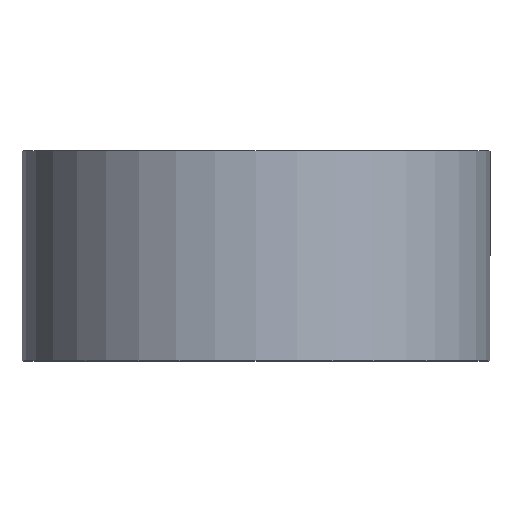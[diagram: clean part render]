
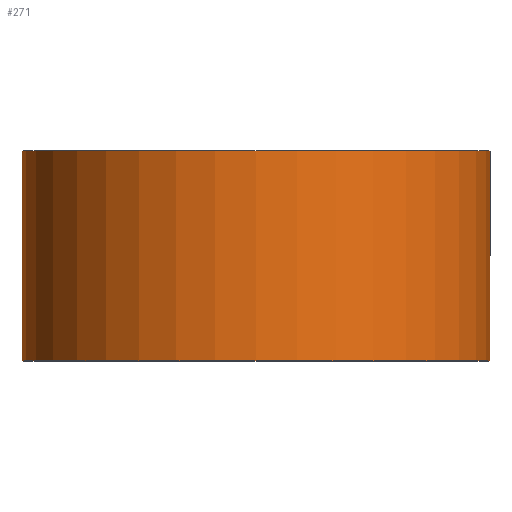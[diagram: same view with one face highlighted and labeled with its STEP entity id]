
A CAD part, top view. The second image highlights one B-rep face of the part: STEP entity #271.
In plain terms, the highlighted cylindrical face has radius 39 mm (diameter 78 mm), a partial arc.
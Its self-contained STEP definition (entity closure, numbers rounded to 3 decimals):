
#2 = CYLINDRICAL_SURFACE ( 'NONE', #176, 39. ) ;
#23 = DIRECTION ( 'NONE',  ( 0., 1., 0. ) ) ;
#24 = FACE_OUTER_BOUND ( 'NONE', #220, .T. ) ;
#34 = DIRECTION ( 'NONE',  ( -1., 0., 0. ) ) ;
#36 = CARTESIAN_POINT ( 'NONE',  ( 39., 35., 0. ) ) ;
#40 = VERTEX_POINT ( 'NONE', #294 ) ;
#44 = ORIENTED_EDGE ( 'NONE', *, *, #282, .F. ) ;
#48 = CARTESIAN_POINT ( 'NONE',  ( -39., 0., 0. ) ) ;
#54 = ORIENTED_EDGE ( 'NONE', *, *, #125, .T. ) ;
#58 = EDGE_CURVE ( 'NONE', #64, #156, #92, .T. ) ;
#63 = CARTESIAN_POINT ( 'NONE',  ( 39., 0., 0. ) ) ;
#64 = VERTEX_POINT ( 'NONE', #236 ) ;
#73 = DIRECTION ( 'NONE',  ( -1., 0., 0. ) ) ;
#76 = DIRECTION ( 'NONE',  ( -1., 0., 0. ) ) ;
#80 = VERTEX_POINT ( 'NONE', #235 ) ;
#92 = CIRCLE ( 'NONE', #144, 39. ) ;
#93 = AXIS2_PLACEMENT_3D ( 'NONE', #166, #209, #76 ) ;
#125 = EDGE_CURVE ( 'NONE', #80, #156, #253, .T. ) ;
#129 = VECTOR ( 'NONE', #131, 1000. ) ;
#131 = DIRECTION ( 'NONE',  ( 0., 1., 0. ) ) ;
#136 = CIRCLE ( 'NONE', #93, 39. ) ;
#144 = AXIS2_PLACEMENT_3D ( 'NONE', #152, #174, #34 ) ;
#152 = CARTESIAN_POINT ( 'NONE',  ( 0., 35., 0. ) ) ;
#156 = VERTEX_POINT ( 'NONE', #36 ) ;
#166 = CARTESIAN_POINT ( 'NONE',  ( 0., 0., 0. ) ) ;
#174 = DIRECTION ( 'NONE',  ( 0., 1., 0. ) ) ;
#176 = AXIS2_PLACEMENT_3D ( 'NONE', #207, #23, #73 ) ;
#183 = LINE ( 'NONE', #48, #228 ) ;
#207 = CARTESIAN_POINT ( 'NONE',  ( 0., 0., 0. ) ) ;
#209 = DIRECTION ( 'NONE',  ( 0., 1., 0. ) ) ;
#213 = ORIENTED_EDGE ( 'NONE', *, *, #58, .F. ) ;
#220 = EDGE_LOOP ( 'NONE', ( #244, #54, #213, #44 ) ) ;
#225 = DIRECTION ( 'NONE',  ( 0., 1., 0. ) ) ;
#228 = VECTOR ( 'NONE', #225, 1000. ) ;
#235 = CARTESIAN_POINT ( 'NONE',  ( 39., 0., 0. ) ) ;
#236 = CARTESIAN_POINT ( 'NONE',  ( -39., 35., 0. ) ) ;
#238 = EDGE_CURVE ( 'NONE', #40, #80, #136, .T. ) ;
#244 = ORIENTED_EDGE ( 'NONE', *, *, #238, .T. ) ;
#253 = LINE ( 'NONE', #63, #129 ) ;
#271 = ADVANCED_FACE ( 'NONE', ( #24 ), #2, .T. ) ;
#282 = EDGE_CURVE ( 'NONE', #40, #64, #183, .T. ) ;
#294 = CARTESIAN_POINT ( 'NONE',  ( -39., 0., 0. ) ) ;
